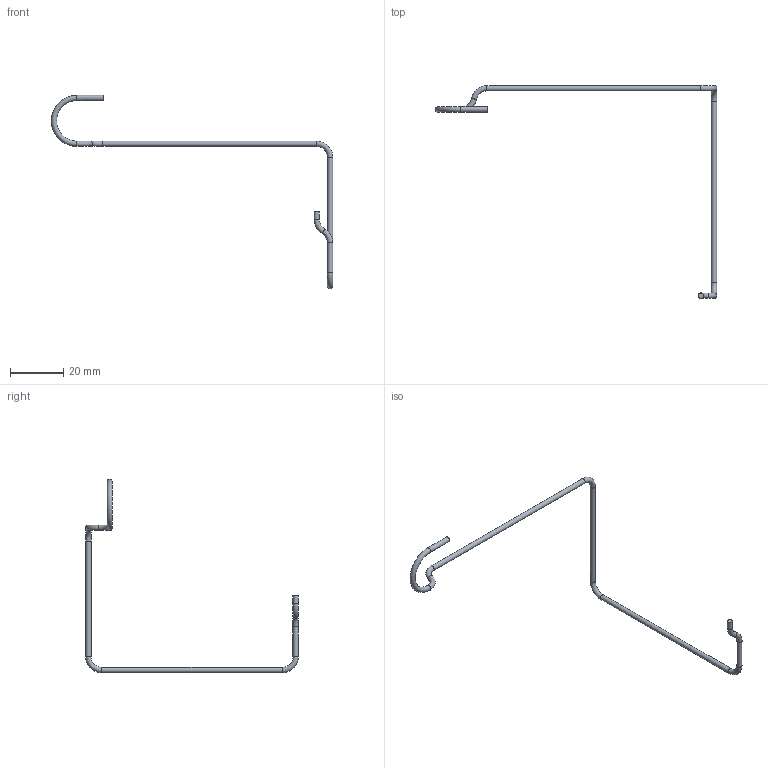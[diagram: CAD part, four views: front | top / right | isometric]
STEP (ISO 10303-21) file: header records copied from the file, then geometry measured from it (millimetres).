
FILE_DESCRIPTION(('Open CASCADE Model'),'2;1');
FILE_NAME('Open CASCADE Shape Model','2026-10-07T05:14:29',('Author'),( 'Open CASCADE'),'Open CASCADE STEP processor 7.7','Open CASCADE 7.7' ,'Unknown');
FILE_SCHEMA(('AUTOMOTIVE_DESIGN { 1 0 10303 214 1 1 1 1 }'));
Length unit declared in the file: millimetre
Products named in the file (1): Open CASCADE STEP translator 7.7 3
Bounding box: 105.6 x 79.78 x 72.6 mm (x, y, z)
Volume: 912.2 mm3; surface area: 1830.7 mm2
Topology: 1 solids, 1 shells, 16 faces, 29 edges, 15 vertices
Faces by surface type: torus 8, cylinder 6, plane 2
Full cylindrical faces by diameter (mm): 2 x6
Entity records: 752 total; most frequent: CARTESIAN_POINT 146, DIRECTION 117, ORIENTED_EDGE 58, PCURVE 58, DEFINITIONAL_REPRESENTATION 58, AXIS2_PLACEMENT_3D 40, LINE 35, VECTOR 35
